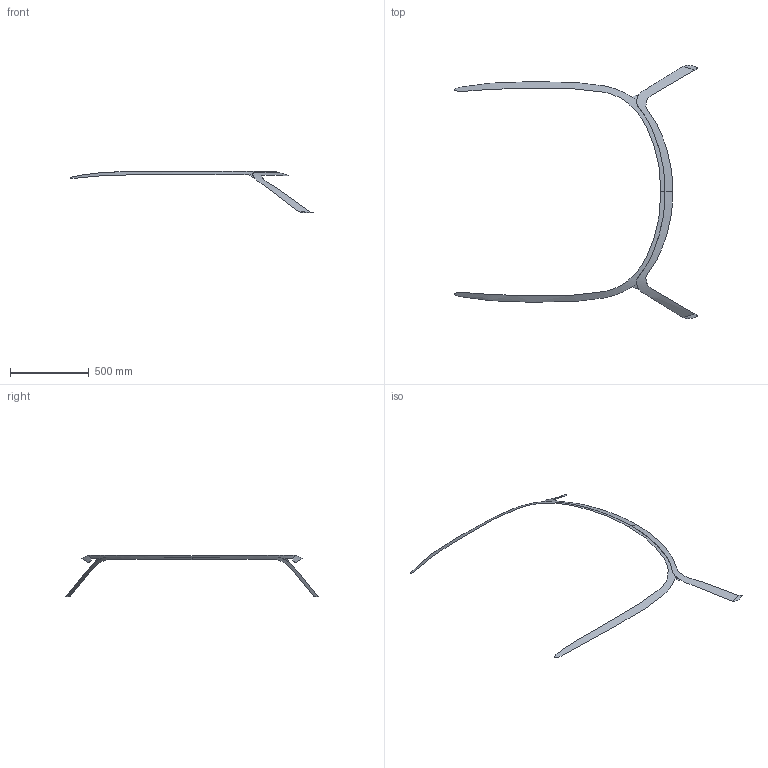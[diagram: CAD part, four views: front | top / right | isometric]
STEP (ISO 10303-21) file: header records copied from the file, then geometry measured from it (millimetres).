
FILE_DESCRIPTION(('Liger macro NURBS open sheets'),'2;1');
FILE_NAME('Body_Roof_Glass_Frame.step','2026-11-01T00:00:00',(''),(''),'Slate','SolidArc','');
FILE_SCHEMA(('AUTOMOTIVE_DESIGN { 1 0 10303 214 1 1 1 1 }'));
Length unit declared in the file: millimetre
Products named in the file (1): Body_Roof_Glass_Frame
Bounding box: 1544.37 x 1611.09 x 265.2 mm (x, y, z)
Surface area: 254220.5 mm2 (no closed solid volume)
Topology: 0 solids, 2 shells, 10 faces, 36 edges, 27 vertices
Faces by surface type: bspline 10
Entity records: 2017 total; most frequent: CARTESIAN_POINT 1815, ORIENTED_EDGE 48, B_SPLINE_CURVE_WITH_KNOTS 36, EDGE_CURVE 36, VERTEX_POINT 27, B_SPLINE_SURFACE_WITH_KNOTS 10, EDGE_LOOP 10, FACE_OUTER_BOUND 10
